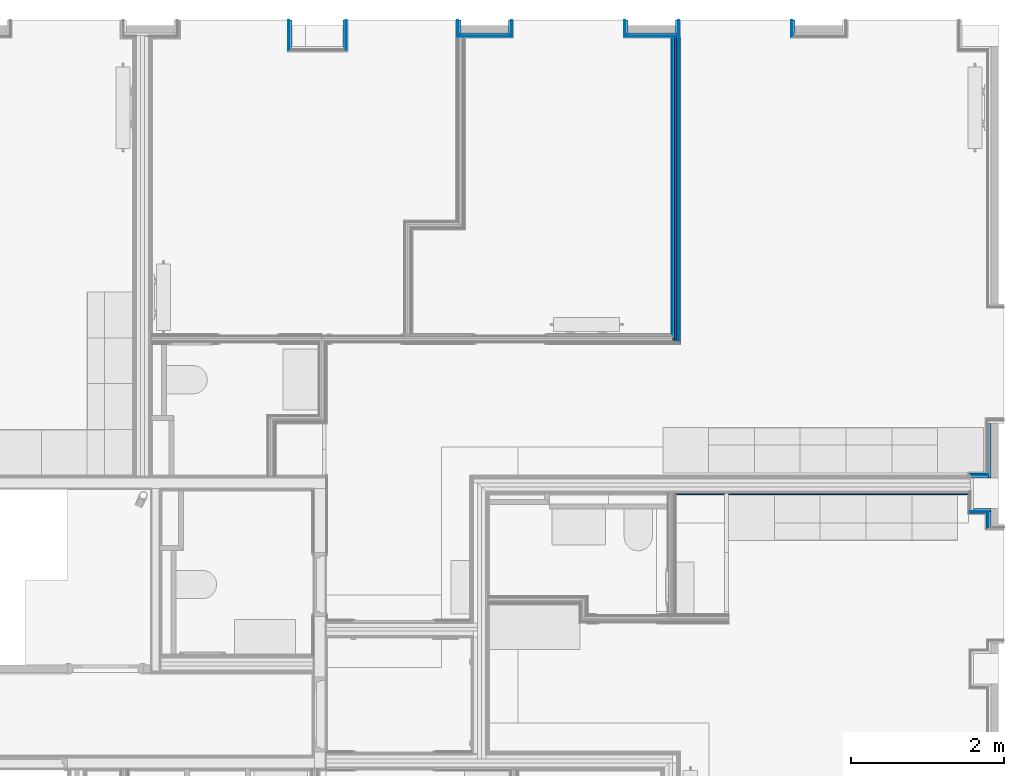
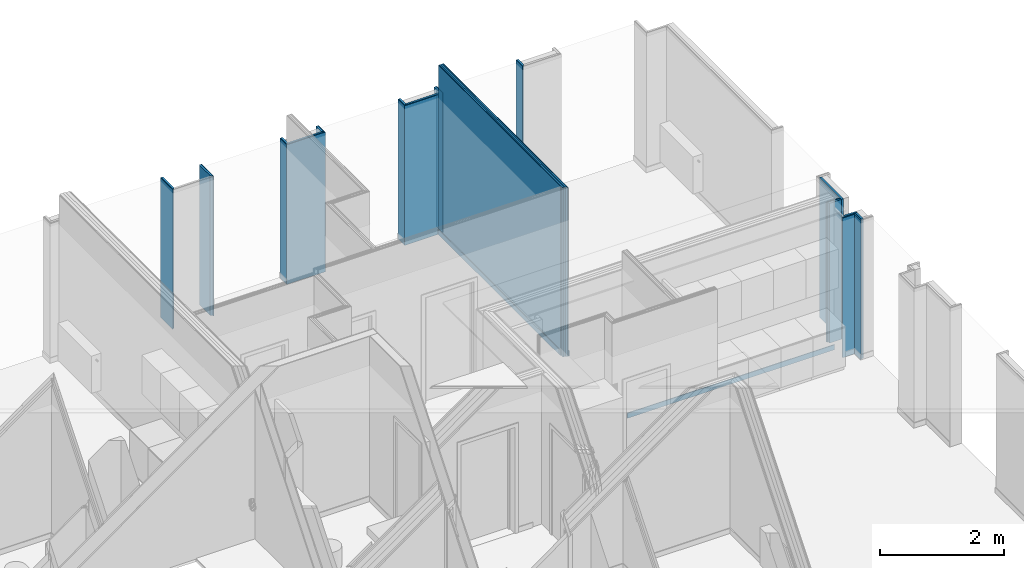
# One storey, part 23 of 64: 36 building element parts, 15 elements without a shape of their own.
"""IFC2X3 building model written with IfcOpenShell, lengths in metres."""

from ifc_helpers import new_model, entity, si_unit, converted_unit, derived_unit, money_unit, direction, frame, frame_2d, origin_with_axes, place, context, subcontext, project, spatial, polyline, rectangle, outline, extrude, material, type_object, element, aggregate, save


model = new_model("IFC2X3")

# Units and contexts
model_context = context("Model", 3, precision=1e-05, world=origin_with_axes(), true_north=direction((0.0, 1.0)))
body_context = subcontext(model_context, "Body", "Model", "MODEL_VIEW", scale=1.0)
ifc_project = project(units=[si_unit("LENGTHUNIT", "METRE"), si_unit("AREAUNIT", "SQUARE_METRE"), si_unit("VOLUMEUNIT", "CUBIC_METRE"), si_unit("ABSORBEDDOSEUNIT", "GRAY"), si_unit("AMOUNTOFSUBSTANCEUNIT", "MOLE"), si_unit("DOSEEQUIVALENTUNIT", "SIEVERT"), si_unit("ELECTRICCAPACITANCEUNIT", "FARAD"), si_unit("ELECTRICCHARGEUNIT", "COULOMB"), si_unit("ELECTRICCONDUCTANCEUNIT", "SIEMENS"), si_unit("ELECTRICCURRENTUNIT", "AMPERE"), si_unit("ELECTRICRESISTANCEUNIT", "OHM"), si_unit("ELECTRICVOLTAGEUNIT", "VOLT"), si_unit("ENERGYUNIT", "JOULE"), si_unit("FORCEUNIT", "NEWTON"), si_unit("FREQUENCYUNIT", "HERTZ"), si_unit("ILLUMINANCEUNIT", "LUX"), si_unit("INDUCTANCEUNIT", "HENRY"), si_unit("LUMINOUSFLUXUNIT", "LUMEN"), si_unit("LUMINOUSINTENSITYUNIT", "CANDELA"), si_unit("MAGNETICFLUXDENSITYUNIT", "TESLA"), si_unit("MAGNETICFLUXUNIT", "WEBER"), si_unit("MASSUNIT", "GRAM"), converted_unit("PLANEANGLEUNIT", "degree", entity("IfcReal", 0.0174532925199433), si_unit("PLANEANGLEUNIT", "RADIAN"), dimensions=[0, 0, 0, 0, 0, 0, 0]), si_unit("POWERUNIT", "WATT"), si_unit("PRESSUREUNIT", "PASCAL"), si_unit("RADIOACTIVITYUNIT", "BECQUEREL"), si_unit("SOLIDANGLEUNIT", "STERADIAN"), si_unit("THERMODYNAMICTEMPERATUREUNIT", "KELVIN"), si_unit("TIMEUNIT", "SECOND"), derived_unit("ACCELERATIONUNIT", [(si_unit("LENGTHUNIT", "METRE"), 1), (si_unit("TIMEUNIT", "SECOND"), -2)]), derived_unit("ANGULARVELOCITYUNIT", [(converted_unit("PLANEANGLEUNIT", "degree", entity("IfcReal", 0.0174532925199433), si_unit("PLANEANGLEUNIT", "RADIAN"), dimensions=[0, 0, 0, 0, 0, 0, 0]), 1), (si_unit("TIMEUNIT", "SECOND"), -1)]), derived_unit("CURVATUREUNIT", [(converted_unit("PLANEANGLEUNIT", "degree", entity("IfcReal", 0.0174532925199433), si_unit("PLANEANGLEUNIT", "RADIAN"), dimensions=[0, 0, 0, 0, 0, 0, 0]), 1), (si_unit("LENGTHUNIT", "METRE"), -1)]), derived_unit("DYNAMICVISCOSITYUNIT", [(si_unit("PRESSUREUNIT", "PASCAL"), 1), (si_unit("TIMEUNIT", "SECOND"), 1)]), derived_unit("HEATFLUXDENSITYUNIT", [(si_unit("POWERUNIT", "WATT"), 1), (si_unit("LENGTHUNIT", "METRE"), -2)]), derived_unit("HEATINGVALUEUNIT", [(si_unit("ENERGYUNIT", "JOULE"), 1), (si_unit("MASSUNIT", "GRAM"), -1)]), derived_unit("INTEGERCOUNTRATEUNIT", [(si_unit("TIMEUNIT", "SECOND"), -1)]), derived_unit("IONCONCENTRATIONUNIT", [(si_unit("MASSUNIT", "GRAM"), 1), (si_unit("VOLUMEUNIT", "CUBIC_METRE"), -1)]), derived_unit("ISOTHERMALMOISTURECAPACITYUNIT", [(si_unit("VOLUMEUNIT", "CUBIC_METRE"), 1), (si_unit("MASSUNIT", "GRAM"), -1)]), derived_unit("KINEMATICVISCOSITYUNIT", [(si_unit("AREAUNIT", "SQUARE_METRE"), 1), (si_unit("TIMEUNIT", "SECOND"), -1)]), derived_unit("LINEARFORCEUNIT", [(si_unit("FORCEUNIT", "NEWTON"), 1), (si_unit("LENGTHUNIT", "METRE"), -1)]), derived_unit("LINEARMOMENTUNIT", [(si_unit("FORCEUNIT", "NEWTON"), 1), (si_unit("LENGTHUNIT", "METRE"), -1)]), derived_unit("LINEARSTIFFNESSUNIT", [(si_unit("FORCEUNIT", "NEWTON"), 1), (si_unit("LENGTHUNIT", "METRE"), -1)]), derived_unit("LINEARVELOCITYUNIT", [(si_unit("LENGTHUNIT", "METRE"), 1), (si_unit("TIMEUNIT", "SECOND"), -1)]), derived_unit("LUMINOUSINTENSITYDISTRIBUTIONUNIT", [(si_unit("LUMINOUSINTENSITYUNIT", "CANDELA"), 1), (si_unit("LUMINOUSFLUXUNIT", "LUMEN"), -1)]), derived_unit("MASSDENSITYUNIT", [(si_unit("MASSUNIT", "GRAM"), 1), (si_unit("VOLUMEUNIT", "CUBIC_METRE"), -1)]), derived_unit("MASSFLOWRATEUNIT", [(si_unit("MASSUNIT", "GRAM"), 1), (si_unit("TIMEUNIT", "SECOND"), -1)]), derived_unit("MASSPERLENGTHUNIT", [(si_unit("MASSUNIT", "GRAM"), 1), (si_unit("LENGTHUNIT", "METRE"), -1)]), derived_unit("MODULUSOFELASTICITYUNIT", [(si_unit("FORCEUNIT", "NEWTON"), 1), (si_unit("AREAUNIT", "SQUARE_METRE"), -1)]), derived_unit("MODULUSOFLINEARSUBGRADEREACTIONUNIT", [(si_unit("FORCEUNIT", "NEWTON"), 1), (si_unit("LENGTHUNIT", "METRE"), -2)]), derived_unit("MODULUSOFROTATIONALSUBGRADEREACTIONUNIT", [(si_unit("FORCEUNIT", "NEWTON"), 1), (si_unit("LENGTHUNIT", "METRE"), 1)]), derived_unit("MODULUSOFSUBGRADEREACTIONUNIT", [(si_unit("FORCEUNIT", "NEWTON"), 1), (si_unit("VOLUMEUNIT", "CUBIC_METRE"), -1)]), derived_unit("MOISTUREDIFFUSIVITYUNIT", [(si_unit("VOLUMEUNIT", "CUBIC_METRE"), 1), (si_unit("TIMEUNIT", "SECOND"), -1)]), derived_unit("MOLECULARWEIGHTUNIT", [(si_unit("MASSUNIT", "GRAM"), 1), (si_unit("AMOUNTOFSUBSTANCEUNIT", "MOLE"), -1)]), derived_unit("PLANARFORCEUNIT", [(si_unit("FORCEUNIT", "NEWTON"), 1), (si_unit("LENGTHUNIT", "METRE"), -2)]), derived_unit("ROTATIONALFREQUENCYUNIT", [(si_unit("TIMEUNIT", "SECOND"), -1)]), derived_unit("ROTATIONALMASSUNIT", [(si_unit("MASSUNIT", "GRAM"), 1), (si_unit("LENGTHUNIT", "METRE"), 2)]), derived_unit("ROTATIONALSTIFFNESSUNIT", [(si_unit("FORCEUNIT", "NEWTON"), 1), (si_unit("LENGTHUNIT", "METRE"), 1), (converted_unit("PLANEANGLEUNIT", "degree", entity("IfcReal", 0.0174532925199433), si_unit("PLANEANGLEUNIT", "RADIAN"), dimensions=[0, 0, 0, 0, 0, 0, 0]), -1)]), derived_unit("SECTIONAREAINTEGRALUNIT", [(si_unit("LENGTHUNIT", "METRE"), 5)]), derived_unit("SECTIONMODULUSUNIT", [(si_unit("LENGTHUNIT", "METRE"), 3)]), derived_unit("SHEARMODULUSUNIT", [(si_unit("FORCEUNIT", "NEWTON"), 1), (si_unit("AREAUNIT", "SQUARE_METRE"), -1)]), derived_unit("SOUNDPOWERUNIT", [(si_unit("ENERGYUNIT", "JOULE"), 1), (si_unit("TIMEUNIT", "SECOND"), -1)]), derived_unit("SPECIFICHEATCAPACITYUNIT", [(si_unit("FORCEUNIT", "NEWTON"), 1), (si_unit("MASSUNIT", "GRAM"), -1), (si_unit("THERMODYNAMICTEMPERATUREUNIT", "KELVIN"), -1)]), derived_unit("TEMPERATUREGRADIENTUNIT", [(si_unit("THERMODYNAMICTEMPERATUREUNIT", "KELVIN"), 1), (si_unit("LENGTHUNIT", "METRE"), -1)]), derived_unit("THERMALADMITTANCEUNIT", [(si_unit("POWERUNIT", "WATT"), 1), (si_unit("AREAUNIT", "SQUARE_METRE"), -1), (si_unit("THERMODYNAMICTEMPERATUREUNIT", "KELVIN"), -1)]), derived_unit("THERMALCONDUCTANCEUNIT", [(si_unit("POWERUNIT", "WATT"), 1), (si_unit("LENGTHUNIT", "METRE"), -1), (si_unit("THERMODYNAMICTEMPERATUREUNIT", "KELVIN"), -1)]), derived_unit("THERMALEXPANSIONCOEFFICIENTUNIT", [(si_unit("THERMODYNAMICTEMPERATUREUNIT", "KELVIN"), -1)]), derived_unit("THERMALRESISTANCEUNIT", [(si_unit("AREAUNIT", "SQUARE_METRE"), 1), (si_unit("POWERUNIT", "WATT"), -1)]), derived_unit("THERMALTRANSMITTANCEUNIT", [(si_unit("POWERUNIT", "WATT"), 1), (si_unit("AREAUNIT", "SQUARE_METRE"), -1), (si_unit("THERMODYNAMICTEMPERATUREUNIT", "KELVIN"), -1)]), derived_unit("TORQUEUNIT", [(si_unit("FORCEUNIT", "NEWTON"), 1), (si_unit("LENGTHUNIT", "METRE"), 1)]), derived_unit("VAPORPERMEABILITYUNIT", [(si_unit("MASSUNIT", "GRAM"), 1), (si_unit("TIMEUNIT", "SECOND"), -1)]), derived_unit("VOLUMETRICFLOWRATEUNIT", [(si_unit("VOLUMEUNIT", "CUBIC_METRE"), 1), (si_unit("TIMEUNIT", "SECOND"), -1)]), derived_unit("WARPINGCONSTANTUNIT", [(si_unit("LENGTHUNIT", "METRE"), 6)]), derived_unit("WARPINGMOMENTUNIT", [(si_unit("FORCEUNIT", "NEWTON"), 1), (si_unit("LENGTHUNIT", "METRE"), 2)]), money_unit("GBP")], contexts=[model_context])

# Site, building, storey
site_placement = place(None, origin_with_axes())
site = spatial("IfcSite", under=ifc_project, at=site_placement, Name="Site", CompositionType="ELEMENT")
building_placement = place(site_placement, origin_with_axes())
building = spatial("IfcBuilding", under=site, at=building_placement, Name="Building01", CompositionType="ELEMENT")
storey_placement = place(building_placement, frame((0.0, 0.0, 8.64), z_axis=(0.0, 0.0, 1.0), x_axis=(1.0, 0.0, 0.0)))
storey = spatial("IfcBuildingStorey", under=building, at=storey_placement, Name="2F", CompositionType="ELEMENT", Elevation=8.64)

# Wall, building element parts
wall_type_1 = type_object("IfcWallType", Name="SHE_A-Walls_Type06d_ExternalWallInsulation_48mm", PredefinedType="NOTDEFINED")
wall_1_placement = place(storey_placement, frame((18.22, 14.8, 0.0), z_axis=(0.0, 0.0, 1.0), x_axis=(0.0, -1.0, 0.0)))
wall_1 = element("IfcWall", 1, at=wall_1_placement, inside=storey, type_object=wall_type_1, Name="6D", ObjectType="SHE_A-Walls_Type06d_ExternalWallInsulation_48mm")
ifc_material_1 = material(Name="A_BSUK_Insulation")
placement_1 = place(wall_1_placement, origin_with_axes())
building_element_part_1 = element("IfcBuildingElementPart", 2, at=placement_1, material=ifc_material_1, Name="1", context=body_context, shape_type="SweptSolid", body=[
    extrude(outline(polyline([(0.386, 0.036), (0.0, 0.036), (0.0, 0.0), (0.35, 0.0), (0.386, 0.036)])), origin_with_axes(), (0.0, 0.0, 1.0), 2.74),
])
ifc_material_2 = material(Name="A_BSUK_WallInternal_Finishes_Plasterboard")
building_element_part_2 = element("IfcBuildingElementPart", 3, at=placement_1, material=ifc_material_2, Name="2", context=body_context, shape_type="SweptSolid", body=[
    extrude(outline(polyline([(0.398, 0.048), (0.0, 0.048), (0.0, 0.035), (0.385, 0.035), (0.398, 0.048)])), origin_with_axes(), (0.0, 0.0, 1.0), 2.74),
])
aggregate(wall_1, [building_element_part_1, building_element_part_2])

wall_2_placement = place(storey_placement, frame((17.55, 14.45, 0.0), z_axis=(0.0, 0.0, 1.0), x_axis=(0.0, 1.0, 0.0)))
wall_2 = element("IfcWall", 4, at=wall_2_placement, inside=storey, type_object=wall_type_1, Name="6D", ObjectType="SHE_A-Walls_Type06d_ExternalWallInsulation_48mm")
placement_2 = place(wall_2_placement, origin_with_axes())
building_element_part_3 = element("IfcBuildingElementPart", 5, at=placement_2, material=ifc_material_1, Name="1", context=body_context, shape_type="SweptSolid", body=[
    extrude(outline(polyline([(-0.036, 0.036), (0.0, 0.0), (0.35, 0.0), (0.35, 0.036), (-0.036, 0.036)])), origin_with_axes(), (0.0, 0.0, 1.0), 2.74),
])
building_element_part_4 = element("IfcBuildingElementPart", 6, at=placement_2, material=ifc_material_2, Name="2", context=body_context, shape_type="SweptSolid", body=[
    extrude(outline(polyline([(-0.048, 0.048), (-0.035, 0.035), (0.35, 0.035), (0.35, 0.048), (-0.048, 0.048)])), origin_with_axes(), (0.0, 0.0, 1.0), 2.74),
])
aggregate(wall_2, [building_element_part_3, building_element_part_4])

wall_3_placement = place(storey_placement, frame((20.387, 14.8, 0.0), z_axis=(0.0, 0.0, 1.0), x_axis=(0.0, -1.0, 0.0)))
wall_3 = element("IfcWall", 7, at=wall_3_placement, inside=storey, type_object=wall_type_1, Name="6D", ObjectType="SHE_A-Walls_Type06d_ExternalWallInsulation_48mm")
placement_3 = place(wall_3_placement, origin_with_axes())
building_element_part_5 = element("IfcBuildingElementPart", 8, at=placement_3, material=ifc_material_1, Name="1", context=body_context, shape_type="SweptSolid", body=[
    extrude(outline(polyline([(0.206, 0.036), (0.0, 0.036), (0.0, 0.0), (0.17, 0.0), (0.206, 0.036)])), origin_with_axes(), (0.0, 0.0, 1.0), 2.74),
])
building_element_part_6 = element("IfcBuildingElementPart", 9, at=placement_3, material=ifc_material_2, Name="2", context=body_context, shape_type="SweptSolid", body=[
    extrude(outline(polyline([(0.218, 0.048), (0.0, 0.048), (0.0, 0.035), (0.205, 0.035), (0.218, 0.048)])), origin_with_axes(), (0.0, 0.0, 1.0), 2.74),
])
aggregate(wall_3, [building_element_part_5, building_element_part_6])

wall_4_placement = place(storey_placement, frame((20.387, 14.63, 0.0), z_axis=(0.0, 0.0, 1.0), x_axis=(-1.0, 0.0, 0.0)))
wall_4 = element("IfcWall", 10, at=wall_4_placement, inside=storey, type_object=wall_type_1, Name="6D", ObjectType="SHE_A-Walls_Type06d_ExternalWallInsulation_48mm")
placement_4 = place(wall_4_placement, origin_with_axes())
building_element_part_7 = element("IfcBuildingElementPart", 11, at=placement_4, material=ifc_material_1, Name="1", context=body_context, shape_type="SweptSolid", body=[
    extrude(outline(polyline([(0.66, 0.036), (-0.036, 0.036), (0.0, 0.0), (0.624, 0.0), (0.66, 0.036)])), origin_with_axes(), (0.0, 0.0, 1.0), 2.74),
])
building_element_part_8 = element("IfcBuildingElementPart", 12, at=placement_4, material=ifc_material_2, Name="2", context=body_context, shape_type="SweptSolid", body=[
    extrude(outline(polyline([(0.672, 0.048), (-0.048, 0.048), (-0.035, 0.035), (0.659, 0.035), (0.672, 0.048)])), origin_with_axes(), (0.0, 0.0, 1.0), 2.74),
])
aggregate(wall_4, [building_element_part_7, building_element_part_8])

wall_5_placement = place(storey_placement, frame((19.763, 14.63, 0.0), z_axis=(0.0, 0.0, 1.0), x_axis=(0.0, 1.0, 0.0)))
wall_5 = element("IfcWall", 13, at=wall_5_placement, inside=storey, type_object=wall_type_1, Name="6D", ObjectType="SHE_A-Walls_Type06d_ExternalWallInsulation_48mm")
placement_5 = place(wall_5_placement, origin_with_axes())
building_element_part_9 = element("IfcBuildingElementPart", 14, at=placement_5, material=ifc_material_1, Name="1", context=body_context, shape_type="SweptSolid", body=[
    extrude(outline(polyline([(-0.036, 0.036), (0.0, 0.0), (0.17, 0.0), (0.17, 0.036), (-0.036, 0.036)])), origin_with_axes(), (0.0, 0.0, 1.0), 2.74),
])
building_element_part_10 = element("IfcBuildingElementPart", 15, at=placement_5, material=ifc_material_2, Name="2", context=body_context, shape_type="SweptSolid", body=[
    extrude(outline(polyline([(-0.048, 0.048), (-0.035, 0.035), (0.17, 0.035), (0.17, 0.048), (-0.048, 0.048)])), origin_with_axes(), (0.0, 0.0, 1.0), 2.74),
])
aggregate(wall_5, [building_element_part_9, building_element_part_10])

wall_6_placement = place(storey_placement, frame((22.577, 14.8, 0.0), z_axis=(0.0, 0.0, 1.0), x_axis=(0.0, -1.0, 0.0)))
wall_6 = element("IfcWall", 16, at=wall_6_placement, inside=storey, type_object=wall_type_1, Name="6D", ObjectType="SHE_A-Walls_Type06d_ExternalWallInsulation_48mm")
placement_6 = place(wall_6_placement, origin_with_axes())
building_element_part_11 = element("IfcBuildingElementPart", 17, at=placement_6, material=ifc_material_1, Name="1", context=body_context, shape_type="SweptSolid", body=[
    extrude(outline(polyline([(0.206, 0.036), (0.0, 0.036), (0.0, 0.0), (0.17, 0.0), (0.206, 0.036)])), origin_with_axes(), (0.0, 0.0, 1.0), 2.74),
])
building_element_part_12 = element("IfcBuildingElementPart", 18, at=placement_6, material=ifc_material_2, Name="2", context=body_context, shape_type="SweptSolid", body=[
    extrude(outline(polyline([(0.218, 0.048), (0.0, 0.048), (0.0, 0.035), (0.205, 0.035), (0.218, 0.048)])), origin_with_axes(), (0.0, 0.0, 1.0), 2.74),
])
aggregate(wall_6, [building_element_part_11, building_element_part_12])

wall_7_placement = place(storey_placement, frame((22.577, 14.63, 0.0), z_axis=(0.0, 0.0, 1.0), x_axis=(-1.0, 0.0, 0.0)))
wall_7 = element("IfcWall", 19, at=wall_7_placement, inside=storey, type_object=wall_type_1, Name="6D", ObjectType="SHE_A-Walls_Type06d_ExternalWallInsulation_48mm")
placement_7 = place(wall_7_placement, origin_with_axes())
building_element_part_13 = element("IfcBuildingElementPart", 20, at=placement_7, material=ifc_material_1, Name="1", context=body_context, shape_type="SweptSolid", body=[
    extrude(outline(polyline([(0.66, 0.036), (-0.036, 0.036), (0.0, 0.0), (0.624, 0.0), (0.66, 0.036)])), origin_with_axes(), (0.0, 0.0, 1.0), 2.74),
])
building_element_part_14 = element("IfcBuildingElementPart", 21, at=placement_7, material=ifc_material_2, Name="2", context=body_context, shape_type="SweptSolid", body=[
    extrude(outline(polyline([(0.672, 0.048), (-0.048, 0.048), (-0.035, 0.035), (0.659, 0.035), (0.672, 0.048)])), origin_with_axes(), (0.0, 0.0, 1.0), 2.74),
])
aggregate(wall_7, [building_element_part_13, building_element_part_14])

wall_8_placement = place(storey_placement, frame((21.953, 14.63, 0.0), z_axis=(0.0, 0.0, 1.0), x_axis=(0.0, 1.0, 0.0)))
wall_8 = element("IfcWall", 22, at=wall_8_placement, inside=storey, type_object=wall_type_1, Name="6D", ObjectType="SHE_A-Walls_Type06d_ExternalWallInsulation_48mm")
placement_8 = place(wall_8_placement, origin_with_axes())
building_element_part_15 = element("IfcBuildingElementPart", 23, at=placement_8, material=ifc_material_1, Name="1", context=body_context, shape_type="SweptSolid", body=[
    extrude(outline(polyline([(-0.036, 0.036), (0.0, 0.0), (0.17, 0.0), (0.17, 0.036), (-0.036, 0.036)])), origin_with_axes(), (0.0, 0.0, 1.0), 2.74),
])
building_element_part_16 = element("IfcBuildingElementPart", 24, at=placement_8, material=ifc_material_2, Name="2", context=body_context, shape_type="SweptSolid", body=[
    extrude(outline(polyline([(-0.048, 0.048), (-0.035, 0.035), (0.17, 0.035), (0.17, 0.048), (-0.048, 0.048)])), origin_with_axes(), (0.0, 0.0, 1.0), 2.74),
])
aggregate(wall_8, [building_element_part_15, building_element_part_16])

wall_9_placement = place(storey_placement, frame((24.143, 14.63, 0.0), z_axis=(0.0, 0.0, 1.0), x_axis=(0.0, 1.0, 0.0)))
wall_9 = element("IfcWall", 25, at=wall_9_placement, inside=storey, type_object=wall_type_1, Name="6D", ObjectType="SHE_A-Walls_Type06d_ExternalWallInsulation_48mm")
placement_9 = place(wall_9_placement, origin_with_axes())
building_element_part_17 = element("IfcBuildingElementPart", 26, at=placement_9, material=ifc_material_1, Name="1", context=body_context, shape_type="SweptSolid", body=[
    extrude(outline(polyline([(-0.036, 0.036), (0.0, 0.0), (0.17, 0.0), (0.17, 0.036), (-0.036, 0.036)])), origin_with_axes(), (0.0, 0.0, 1.0), 2.74),
])
building_element_part_18 = element("IfcBuildingElementPart", 27, at=placement_9, material=ifc_material_2, Name="2", context=body_context, shape_type="SweptSolid", body=[
    extrude(outline(polyline([(-0.048, 0.048), (-0.035, 0.035), (0.17, 0.035), (0.17, 0.048), (-0.048, 0.048)])), origin_with_axes(), (0.0, 0.0, 1.0), 2.74),
])
aggregate(wall_9, [building_element_part_17, building_element_part_18])

wall_type_2 = type_object("IfcWallType", Name="SHE_A-Walls_Type05a_Partition_95mm_tall", PredefinedType="NOTDEFINED")
wall_10_placement = place(storey_placement, frame((22.59, 10.605, 0.0), z_axis=(0.0, 0.0, 1.0), x_axis=(0.0, 1.0, 0.0)))
wall_10 = element("IfcWall", 28, at=wall_10_placement, inside=storey, type_object=wall_type_2, Name="5A", ObjectType="SHE_A-Walls_Type05a_Partition_95mm_tall")
ifc_material_3 = material(Name="A_BSUK_Walls_Timber")
placement_10 = place(wall_10_placement, origin_with_axes())
building_element_part_19 = element("IfcBuildingElementPart", 29, at=placement_10, material=ifc_material_3, Name="1", context=body_context, shape_type="SweptSolid", body=[
    extrude(outline(polyline([(3.977, -0.035), (-0.035, -0.035), (-0.05, -0.05), (3.977, -0.05), (3.977, -0.035)])), frame((0.0, 0.0, 0.015), z_axis=(0.0, 0.0, 1.0), x_axis=(1.0, 0.0, 0.0)), (0.0, 0.0, 1.0), 0.1),
])
building_element_part_20 = element("IfcBuildingElementPart", 30, at=placement_10, material=ifc_material_2, Name="2", context=body_context, shape_type="SweptSolid", body=[
    extrude(outline(polyline([(3.977, -0.023), (-0.023, -0.023), (-0.035, -0.035), (3.977, -0.035), (3.977, -0.023)])), origin_with_axes(), (0.0, 0.0, 1.0), 3.32),
])
ifc_material_4 = material(Name="Air Cavity")
building_element_part_21 = element("IfcBuildingElementPart", 31, at=placement_10, material=ifc_material_4, Name="3", context=body_context, shape_type="SweptSolid", body=[
    extrude(outline(polyline([(3.977, 0.0), (0.0, 0.0), (-0.023, -0.023), (3.977, -0.023), (3.977, 0.0)])), origin_with_axes(), (0.0, 0.0, 1.0), 3.32),
])
building_element_part_22 = element("IfcBuildingElementPart", 32, at=placement_10, material=ifc_material_1, Name="4", context=body_context, shape_type="SweptSolid", body=[
    extrude(rectangle(XDim=3.977, YDim=0.025, at=frame_2d((1.9885, 0.0125), x_axis=(-1.0, 0.0))), origin_with_axes(), (0.0, 0.0, 1.0), 3.32),
])
building_element_part_23 = element("IfcBuildingElementPart", 33, at=placement_10, material=ifc_material_4, Name="5", context=body_context, shape_type="SweptSolid", body=[
    extrude(rectangle(XDim=3.977, YDim=0.023, at=frame_2d((1.9885, 0.0365), x_axis=(-1.0, 0.0))), origin_with_axes(), (0.0, 0.0, 1.0), 3.32),
])
building_element_part_24 = element("IfcBuildingElementPart", 34, at=placement_10, material=ifc_material_2, Name="6", context=body_context, shape_type="SweptSolid", body=[
    extrude(outline(polyline([(3.977, 0.06), (0.06, 0.06), (0.048, 0.048), (3.977, 0.048), (3.977, 0.06)])), origin_with_axes(), (0.0, 0.0, 1.0), 3.32),
])
building_element_part_25 = element("IfcBuildingElementPart", 35, at=placement_10, material=ifc_material_3, Name="7", context=body_context, shape_type="SweptSolid", body=[
    extrude(outline(polyline([(3.962, 0.075), (0.075, 0.075), (0.06, 0.06), (3.962, 0.06), (3.962, 0.075)])), frame((0.0, 0.0, 0.015), z_axis=(0.0, 0.0, 1.0), x_axis=(1.0, 0.0, 0.0)), (0.0, 0.0, 1.0), 0.1),
])
aggregate(wall_10, [building_element_part_19, building_element_part_20, building_element_part_21, building_element_part_22, building_element_part_23, building_element_part_24, building_element_part_25])

# Wall, building element part
wall_type_3 = type_object("IfcWallType", Name="SHE_A-Walls_Type01c_Partywall_225mm_twin_tall", PredefinedType="NOTDEFINED")
wall_11_placement = place(storey_placement, frame((26.444, 8.732, 0.0), z_axis=(0.0, 0.0, 1.0), x_axis=(-1.0, 0.0, 0.0)))
wall_11 = element("IfcWall", 36, at=wall_11_placement, inside=storey, type_object=wall_type_3, Name="1C", ObjectType="SHE_A-Walls_Type01c_Partywall_225mm_twin_tall")
building_element_part_26_placement = place(wall_11_placement, origin_with_axes())
building_element_part_26 = element("IfcBuildingElementPart", 37, at=building_element_part_26_placement, material=ifc_material_3, Name="11", context=body_context, shape_type="SweptSolid", body=[
    extrude(rectangle(XDim=3.845339, YDim=0.015, at=frame_2d((1.949669, 0.1445), x_axis=(-1.0, 0.0))), frame((0.0, 0.0, 0.015), z_axis=(0.0, 0.0, 1.0), x_axis=(1.0, 0.0, 0.0)), (0.0, 0.0, 1.0), 0.1),
])
aggregate(wall_11, [building_element_part_26])

# Wall, building element parts
wall_type_4 = type_object("IfcWallType", Name="SHE_A-Walls_Type06f_ExternalWallInsulation_48+15mm", PredefinedType="NOTDEFINED")
wall_12_placement = place(storey_placement, frame((26.48, 8.4, 0.0), z_axis=(0.0, 0.0, 1.0), x_axis=(1.0, 0.0, 0.0)))
wall_12 = element("IfcWall", 38, at=wall_12_placement, inside=storey, type_object=wall_type_4, Name="6F", ObjectType="SHE_A-Walls_Type06f_ExternalWallInsulation_48+15mm")
placement_11 = place(wall_12_placement, origin_with_axes())
building_element_part_27 = element("IfcBuildingElementPart", 39, at=placement_11, material=ifc_material_2, Name="2", context=body_context, shape_type="SweptSolid", body=[
    extrude(outline(polyline([(0.167, -0.048), (-0.048, -0.048), (-0.063, -0.063), (0.167, -0.063), (0.167, -0.048)])), origin_with_axes(), (0.0, 0.0, 1.0), 2.74),
])
building_element_part_28 = element("IfcBuildingElementPart", 40, at=placement_11, material=ifc_material_2, Name="3", context=body_context, shape_type="SweptSolid", body=[
    extrude(rectangle(XDim=0.23, YDim=0.012, at=frame_2d((0.067, -0.042), x_axis=(-1.0, 0.0))), origin_with_axes(), (0.0, 0.0, 1.0), 2.74),
])
building_element_part_29 = element("IfcBuildingElementPart", 41, at=placement_11, material=ifc_material_1, Name="4", context=body_context, shape_type="SweptSolid", body=[
    extrude(rectangle(XDim=0.23, YDim=0.036, at=frame_2d((0.115, -0.018), x_axis=(-1.0, 0.0))), origin_with_axes(), (0.0, 0.0, 1.0), 2.74),
])
aggregate(wall_12, [building_element_part_27, building_element_part_28, building_element_part_29])

wall_13_placement = place(storey_placement, frame((26.674, 8.8, 0.0), z_axis=(0.0, 0.0, 1.0), x_axis=(-1.0, 0.0, 0.0)))
wall_13 = element("IfcWall", 42, at=wall_13_placement, inside=storey, type_object=wall_type_4, Name="6F", ObjectType="SHE_A-Walls_Type06f_ExternalWallInsulation_48+15mm")
placement_12 = place(wall_13_placement, origin_with_axes())
building_element_part_30 = element("IfcBuildingElementPart", 43, at=placement_12, material=ifc_material_2, Name="2", context=body_context, shape_type="SweptSolid", body=[
    extrude(outline(polyline([(0.242, -0.048), (0.012, -0.048), (0.027, -0.063), (0.257, -0.063), (0.242, -0.048)])), origin_with_axes(), (0.0, 0.0, 1.0), 2.74),
])
building_element_part_31 = element("IfcBuildingElementPart", 44, at=placement_12, material=ifc_material_2, Name="3", context=body_context, shape_type="SweptSolid", body=[
    extrude(rectangle(XDim=0.242, YDim=0.012, at=frame_2d((0.121, -0.042), x_axis=(-1.0, 0.0))), origin_with_axes(), (0.0, 0.0, 1.0), 2.74),
])
building_element_part_32 = element("IfcBuildingElementPart", 45, at=placement_12, material=ifc_material_1, Name="4", context=body_context, shape_type="SweptSolid", body=[
    extrude(rectangle(XDim=0.23, YDim=0.036, at=frame_2d((0.115, -0.018), x_axis=(-1.0, 0.0))), origin_with_axes(), (0.0, 0.0, 1.0), 2.74),
])
aggregate(wall_13, [building_element_part_30, building_element_part_31, building_element_part_32])

# Wall, building element part
wall_14_placement = place(storey_placement, frame((26.71, 9.51418, 0.0), z_axis=(0.0, 0.0, 1.0), x_axis=(0.0, -1.0, 0.0)))
wall_14 = element("IfcWall", 46, at=wall_14_placement, inside=storey, type_object=wall_type_4, Name="6F", ObjectType="SHE_A-Walls_Type06f_ExternalWallInsulation_48+15mm")
building_element_part_33_placement = place(wall_14_placement, origin_with_axes())
building_element_part_33 = element("IfcBuildingElementPart", 47, at=building_element_part_33_placement, material=ifc_material_1, Name="4", context=body_context, shape_type="SweptSolid", body=[
    extrude(rectangle(XDim=0.71418, YDim=0.036, at=frame_2d((0.35709, -0.018), x_axis=(-1.0, 0.0))), origin_with_axes(), (0.0, 0.0, 1.0), 2.74),
])
aggregate(wall_14, [building_element_part_33])

# Wall, building element parts
wall_15_placement = place(storey_placement, frame((26.71, 8.164326, 0.0), z_axis=(0.0, 0.0, 1.0), x_axis=(0.0, 1.0, 0.0)))
wall_15 = element("IfcWall", 48, at=wall_15_placement, inside=storey, type_object=wall_type_4, Name="6F", ObjectType="SHE_A-Walls_Type06f_ExternalWallInsulation_48+15mm")
placement_13 = place(wall_15_placement, origin_with_axes())
building_element_part_34 = element("IfcBuildingElementPart", 49, at=placement_13, material=ifc_material_1, Name="1", context=body_context, shape_type="SweptSolid", body=[
    extrude(rectangle(XDim=0.199674, YDim=0.036, at=frame_2d((0.099837, 0.018), x_axis=(-1.0, 0.0))), origin_with_axes(), (0.0, 0.0, 1.0), 2.74),
])
building_element_part_35 = element("IfcBuildingElementPart", 50, at=placement_13, material=ifc_material_2, Name="2", context=body_context, shape_type="SweptSolid", body=[
    extrude(rectangle(XDim=0.211674, YDim=0.012, at=frame_2d((0.093837, 0.042), x_axis=(-1.0, 0.0))), origin_with_axes(), (0.0, 0.0, 1.0), 2.74),
])
building_element_part_36 = element("IfcBuildingElementPart", 51, at=placement_13, material=ifc_material_2, Name="3", context=body_context, shape_type="SweptSolid", body=[
    extrude(outline(polyline([(0.187674, 0.063), (-0.027, 0.063), (-0.012, 0.048), (0.187674, 0.048), (0.187674, 0.063)])), origin_with_axes(), (0.0, 0.0, 1.0), 2.74),
])
aggregate(wall_15, [building_element_part_34, building_element_part_35, building_element_part_36])

save(model, "model.ifc")
